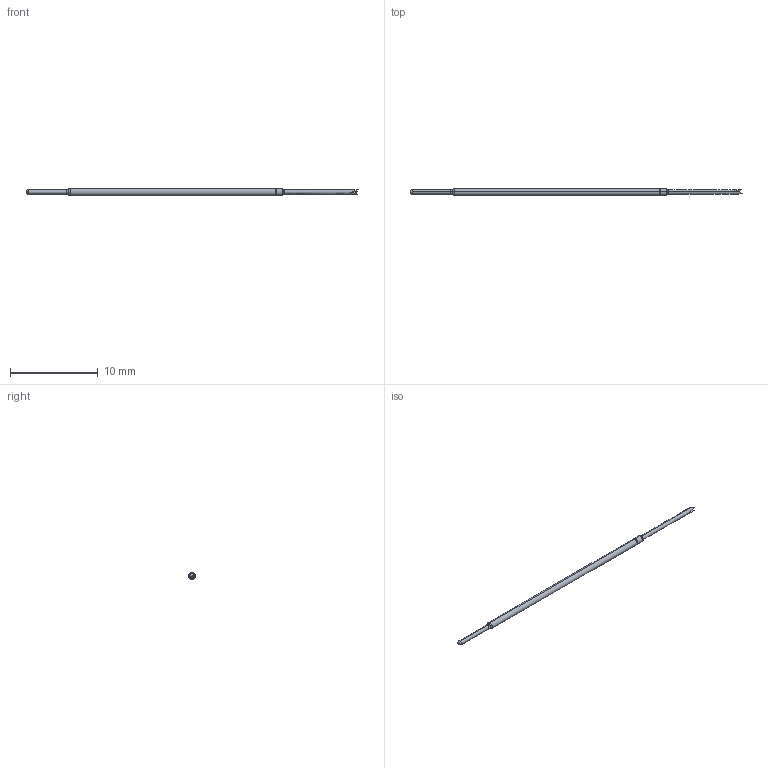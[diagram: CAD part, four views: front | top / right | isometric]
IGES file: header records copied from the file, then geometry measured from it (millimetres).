
Start section: SolidWorks IGES file using analytic representation for surfaces
Global section: file name: C:\Documents and Settings\mrumschlag\Desktop\changes\new\test\U.IGS; native system: SolidWorks 2011; preprocessor: SolidWorks 2011; author: mrumschlag; date: 110630.142728; units: inch
Bounding box: 37.93 x 0.76 x 0.76 mm (x, y, z)
Surface area: 81.1 mm2 (no closed solid volume)
Topology: 0 solids, 0 shells, 29 faces, 182 edges, 180 vertices
Faces by surface type: bspline 15, revolution 14
